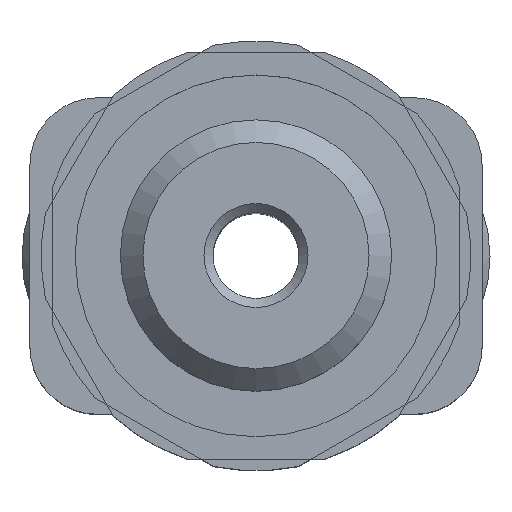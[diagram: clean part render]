
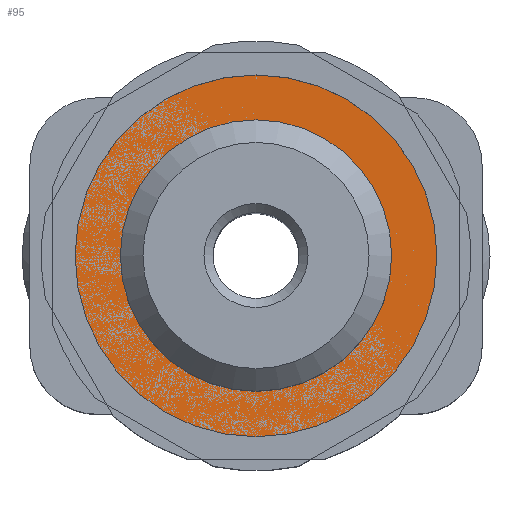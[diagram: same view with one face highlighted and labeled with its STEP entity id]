
A CAD part, top view. The second image highlights one B-rep face of the part: STEP entity #95.
In plain terms, the highlighted planar face has unit normal (0, 0, 1).
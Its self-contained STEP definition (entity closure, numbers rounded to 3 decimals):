
#95 = ADVANCED_FACE( '', ( #194, #195 ), #196, .T. );
#194 = FACE_BOUND( '', #304, .T. );
#195 = FACE_OUTER_BOUND( '', #305, .T. );
#196 = PLANE( '', #306 );
#304 = EDGE_LOOP( '', ( #489 ) );
#305 = EDGE_LOOP( '', ( #490 ) );
#306 = AXIS2_PLACEMENT_3D( '', #491, #492, #493 );
#489 = ORIENTED_EDGE( '', *, *, #721, .T. );
#490 = ORIENTED_EDGE( '', *, *, #706, .F. );
#491 = CARTESIAN_POINT( '', ( -4., 0., 1.6 ) );
#492 = DIRECTION( '', ( 0., 0., 1. ) );
#493 = DIRECTION( '', ( 1., 0., 0. ) );
#706 = EDGE_CURVE( '', #879, #879, #880, .T. );
#721 = EDGE_CURVE( '', #901, #901, #902, .T. );
#879 = VERTEX_POINT( '', #1248 );
#880 = CIRCLE( '', #1249, 4. );
#901 = VERTEX_POINT( '', #1274 );
#902 = CIRCLE( '', #1275, 2.5 );
#1248 = CARTESIAN_POINT( '', ( -4., 0., 1.6 ) );
#1249 = AXIS2_PLACEMENT_3D( '', #1444, #1445, #1446 );
#1274 = CARTESIAN_POINT( '', ( -2.5, 0., 1.6 ) );
#1275 = AXIS2_PLACEMENT_3D( '', #1463, #1464, #1465 );
#1444 = CARTESIAN_POINT( '', ( 0., 0., 1.6 ) );
#1445 = DIRECTION( '', ( 0., 0., -1. ) );
#1446 = DIRECTION( '', ( -1., 0., 0. ) );
#1463 = CARTESIAN_POINT( '', ( 0., 0., 1.6 ) );
#1464 = DIRECTION( '', ( 0., 0., -1. ) );
#1465 = DIRECTION( '', ( -1., 0., 0. ) );
